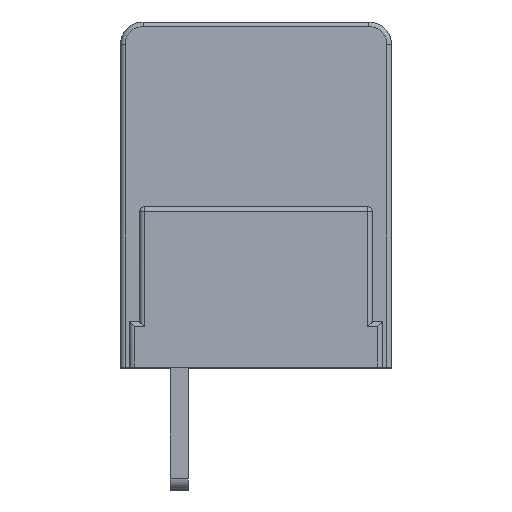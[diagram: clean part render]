
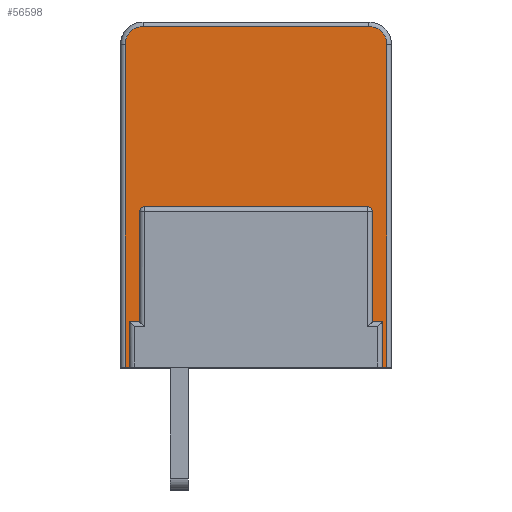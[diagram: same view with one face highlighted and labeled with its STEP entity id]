
A CAD part, top view. The second image highlights one B-rep face of the part: STEP entity #56598.
In plain terms, the highlighted planar face has unit normal (0, 0.009, 1).
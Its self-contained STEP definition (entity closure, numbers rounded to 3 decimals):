
#23986=DIRECTION('',(0.,-1.,0.009));
#23987=VECTOR('',#23986,14.302);
#23988=CARTESIAN_POINT('',(11.8,14.303,
-6.783));
#23989=LINE('',#23988,#23987);
#23995=DIRECTION('',(1.,0.,0.));
#23996=VECTOR('',#23995,11.6);
#23997=CARTESIAN_POINT('',(0.2,0.002,-6.658));
#23998=LINE('',#23997,#23996);
#23999=CARTESIAN_POINT('',(1.,14.304,
-6.783));
#24000=DIRECTION('',(0.,0.009,1.));
#24001=DIRECTION('',(0.,1.,-0.009));
#24002=AXIS2_PLACEMENT_3D('',#23999,#24000,#24001);
#24008=DIRECTION('',(0.,1.,-0.009));
#24009=VECTOR('',#24008,5.6);
#24010=CARTESIAN_POINT('',(1.65,1.502,-6.671));
#24011=LINE('',#24010,#24009);
#24032=DIRECTION('',(-1.,0.,0.));
#24033=VECTOR('',#24032,0.6);
#24034=CARTESIAN_POINT('',(1.65,7.102,-6.72));
#24035=LINE('',#24034,#24033);
#24041=DIRECTION('',(-1.,0.,0.));
#24042=VECTOR('',#24041,4.57);
#24043=CARTESIAN_POINT('',(8.285,7.102,-6.72));
#24044=LINE('',#24043,#24042);
#24050=DIRECTION('',(-1.,0.,0.));
#24051=VECTOR('',#24050,0.6);
#24052=CARTESIAN_POINT('',(10.95,7.102,-6.72));
#24053=LINE('',#24052,#24051);
#24194=DIRECTION('',(1.,0.,0.));
#24195=VECTOR('',#24194,11.2);
#24196=CARTESIAN_POINT('',(0.4,0.502,-6.662));
#24197=LINE('',#24196,#24195);
#24202=DIRECTION('',(0.,1.,-0.009));
#24203=VECTOR('',#24202,1.5);
#24204=CARTESIAN_POINT('',(11.6,0.502,-6.662));
#24205=LINE('',#24204,#24203);
#24306=CARTESIAN_POINT('',(1.05,7.102,-6.72));
#24307=CARTESIAN_POINT('',(1.017,7.102,-6.72));
#24308=CARTESIAN_POINT('',(0.964,7.087,
-6.72));
#24309=CARTESIAN_POINT('',(0.906,7.046,
-6.72));
#24310=CARTESIAN_POINT('',(0.864,6.987,
-6.719));
#24311=CARTESIAN_POINT('',(0.85,6.935,-6.719));
#24312=CARTESIAN_POINT('',(0.85,6.902,-6.718));
#24318=DIRECTION('',(0.,-1.,0.009));
#24319=VECTOR('',#24318,4.9);
#24320=CARTESIAN_POINT('',(0.85,6.902,-6.718));
#24321=LINE('',#24320,#24319);
#24378=DIRECTION('',(0.,-1.,0.009));
#24379=VECTOR('',#24378,1.5);
#24380=CARTESIAN_POINT('',(0.4,2.002,-6.675));
#24381=LINE('',#24380,#24379);
#24386=DIRECTION('',(-1.,0.,0.));
#24387=VECTOR('',#24386,0.45);
#24388=CARTESIAN_POINT('',(0.85,2.002,-6.675));
#24389=LINE('',#24388,#24387);
#24414=CARTESIAN_POINT('',(11.15,6.902,-6.718));
#24415=CARTESIAN_POINT('',(11.15,6.935,-6.719));
#24416=CARTESIAN_POINT('',(11.136,6.987,
-6.719));
#24417=CARTESIAN_POINT('',(11.094,7.046,
-6.72));
#24418=CARTESIAN_POINT('',(11.036,7.087,
-6.72));
#24419=CARTESIAN_POINT('',(10.983,7.102,-6.72));
#24420=CARTESIAN_POINT('',(10.95,7.102,-6.72));
#24422=DIRECTION('',(0.,1.,-0.009));
#24423=VECTOR('',#24422,4.9);
#24424=CARTESIAN_POINT('',(11.15,2.002,-6.675));
#24425=LINE('',#24424,#24423);
#24434=DIRECTION('',(-1.,0.,0.));
#24435=VECTOR('',#24434,0.45);
#24436=CARTESIAN_POINT('',(11.6,2.002,-6.675));
#24437=LINE('',#24436,#24435);
#24462=DIRECTION('',(-1.,0.,0.));
#24463=VECTOR('',#24462,2.004);
#24464=CARTESIAN_POINT('',(3.654,1.502,
-6.671));
#24465=LINE('',#24464,#24463);
#24471=CARTESIAN_POINT('',(3.715,7.102,-6.72));
#24472=CARTESIAN_POINT('',(3.694,5.235,
-6.704));
#24473=CARTESIAN_POINT('',(3.674,3.368,
-6.687));
#24474=CARTESIAN_POINT('',(3.654,1.502,
-6.671));
#24480=CARTESIAN_POINT('',(8.346,1.502,
-6.671));
#24481=CARTESIAN_POINT('',(8.326,3.368,
-6.687));
#24482=CARTESIAN_POINT('',(8.306,5.235,
-6.704));
#24483=CARTESIAN_POINT('',(8.285,7.102,-6.72));
#24494=DIRECTION('',(-1.,0.,0.));
#24495=VECTOR('',#24494,2.004);
#24496=CARTESIAN_POINT('',(10.35,1.502,-6.671));
#24497=LINE('',#24496,#24495);
#24502=DIRECTION('',(0.,-1.,0.009));
#24503=VECTOR('',#24502,5.6);
#24504=CARTESIAN_POINT('',(10.35,7.102,-6.72));
#24505=LINE('',#24504,#24503);
#24522=DIRECTION('',(0.,1.,-0.009));
#24523=VECTOR('',#24522,14.302);
#24524=CARTESIAN_POINT('',(0.2,0.002,-6.658));
#24525=LINE('',#24524,#24523);
#24532=CARTESIAN_POINT('',(0.2,0.002,
-6.658));
#24554=DIRECTION('',(1.,0.,0.));
#24555=VECTOR('',#24554,10.);
#24556=CARTESIAN_POINT('',(1.,15.103,
-6.79));
#24557=LINE('',#24556,#24555);
#24567=CARTESIAN_POINT('',(11.,14.304,
-6.783));
#24568=DIRECTION('',(0.,-0.009,-1.));
#24569=DIRECTION('',(0.,1.,-0.009));
#24570=AXIS2_PLACEMENT_3D('',#24567,#24568,#24569);
#25177=VERTEX_POINT('',#24532);
#25178=CARTESIAN_POINT('',(11.8,0.002,-6.658));
#25179=VERTEX_POINT('',#25178);
#25184=CARTESIAN_POINT('',(0.2,14.303,
-6.783));
#25185=VERTEX_POINT('',#25184);
#25241=CARTESIAN_POINT('',(1.,15.103,
-6.79));
#25242=VERTEX_POINT('',#25241);
#25243=CARTESIAN_POINT('',(11.,15.103,
-6.79));
#25244=VERTEX_POINT('',#25243);
#25245=CARTESIAN_POINT('',(11.8,14.303,
-6.783));
#25246=VERTEX_POINT('',#25245);
#25247=CARTESIAN_POINT('',(1.65,7.102,-6.72));
#25248=CARTESIAN_POINT('',(1.05,7.102,-6.72));
#25249=VERTEX_POINT('',#25247);
#25250=VERTEX_POINT('',#25248);
#25251=VERTEX_POINT('',#24312);
#25252=CARTESIAN_POINT('',(0.85,2.002,-6.675));
#25253=VERTEX_POINT('',#25252);
#25254=CARTESIAN_POINT('',(0.4,2.002,-6.675));
#25255=VERTEX_POINT('',#25254);
#25256=CARTESIAN_POINT('',(0.4,0.502,-6.662));
#25257=VERTEX_POINT('',#25256);
#25258=CARTESIAN_POINT('',(11.6,0.502,-6.662));
#25259=VERTEX_POINT('',#25258);
#25260=CARTESIAN_POINT('',(11.6,2.002,-6.675));
#25261=VERTEX_POINT('',#25260);
#25262=CARTESIAN_POINT('',(11.15,2.002,-6.675));
#25263=VERTEX_POINT('',#25262);
#25264=CARTESIAN_POINT('',(11.15,6.902,-6.718));
#25265=VERTEX_POINT('',#25264);
#25266=VERTEX_POINT('',#24420);
#25267=CARTESIAN_POINT('',(10.35,7.102,-6.72));
#25268=VERTEX_POINT('',#25267);
#25269=CARTESIAN_POINT('',(10.35,1.502,-6.671));
#25270=VERTEX_POINT('',#25269);
#25271=CARTESIAN_POINT('',(8.346,1.502,
-6.671));
#25272=VERTEX_POINT('',#25271);
#25273=VERTEX_POINT('',#24483);
#25274=CARTESIAN_POINT('',(3.715,7.102,-6.72));
#25275=VERTEX_POINT('',#25274);
#25276=VERTEX_POINT('',#24474);
#25277=CARTESIAN_POINT('',(1.65,1.502,-6.671));
#25278=VERTEX_POINT('',#25277);
#56543=CARTESIAN_POINT('',(-0.768,7.102,-6.72));
#56544=DIRECTION('',(0.,0.009,1.));
#56545=DIRECTION('',(1.,0.,0.));
#56546=AXIS2_PLACEMENT_3D('',#56543,#56544,#56545);
#56547=PLANE('',#56546);
#56548=ORIENTED_EDGE('',*,*,#56433,.F.);
#56550=ORIENTED_EDGE('',*,*,#56549,.T.);
#56552=ORIENTED_EDGE('',*,*,#56551,.F.);
#56554=ORIENTED_EDGE('',*,*,#56553,.T.);
#56556=ORIENTED_EDGE('',*,*,#56555,.T.);
#56557=ORIENTED_EDGE('',*,*,#56536,.T.);
#56558=EDGE_LOOP('',(#56548,#56550,#56552,#56554,#56556,#56557));
#56559=FACE_OUTER_BOUND('',#56558,.F.);
#56561=ORIENTED_EDGE('',*,*,#56560,.T.);
#56563=ORIENTED_EDGE('',*,*,#56562,.T.);
#56565=ORIENTED_EDGE('',*,*,#56564,.T.);
#56567=ORIENTED_EDGE('',*,*,#56566,.T.);
#56569=ORIENTED_EDGE('',*,*,#56568,.T.);
#56571=ORIENTED_EDGE('',*,*,#56570,.T.);
#56573=ORIENTED_EDGE('',*,*,#56572,.T.);
#56575=ORIENTED_EDGE('',*,*,#56574,.T.);
#56577=ORIENTED_EDGE('',*,*,#56576,.T.);
#56579=ORIENTED_EDGE('',*,*,#56578,.T.);
#56581=ORIENTED_EDGE('',*,*,#56580,.T.);
#56583=ORIENTED_EDGE('',*,*,#56582,.T.);
#56585=ORIENTED_EDGE('',*,*,#56584,.T.);
#56587=ORIENTED_EDGE('',*,*,#56586,.T.);
#56589=ORIENTED_EDGE('',*,*,#56588,.T.);
#56591=ORIENTED_EDGE('',*,*,#56590,.T.);
#56593=ORIENTED_EDGE('',*,*,#56592,.T.);
#56595=ORIENTED_EDGE('',*,*,#56594,.T.);
#56596=EDGE_LOOP('',(#56561,#56563,#56565,#56567,#56569,#56571,#56573,#56575,
#56577,#56579,#56581,#56583,#56585,#56587,#56589,#56591,#56593,#56595));
#56597=FACE_BOUND('',#56596,.F.);
#56598=ADVANCED_FACE('',(#56559,#56597),#56547,.T.);
#24003=CIRCLE('',#24002,0.8);
#24313=B_SPLINE_CURVE_WITH_KNOTS('',3,(#24306,#24307,#24308,#24309,#24310,
#24311,#24312),.UNSPECIFIED.,.F.,.F.,(4,1,1,1,4),(0.,0.25,0.5,0.75,
1.),.UNSPECIFIED.);
#24421=B_SPLINE_CURVE_WITH_KNOTS('',3,(#24414,#24415,#24416,#24417,#24418,
#24419,#24420),.UNSPECIFIED.,.F.,.F.,(4,1,1,1,4),(0.,0.25,0.5,0.75,
1.),.UNSPECIFIED.);
#24475=B_SPLINE_CURVE_WITH_KNOTS('',3,(#24471,#24472,#24473,#24474),
.UNSPECIFIED.,.F.,.F.,(4,4),(0.,1.),.UNSPECIFIED.);
#24484=B_SPLINE_CURVE_WITH_KNOTS('',3,(#24480,#24481,#24482,#24483),
.UNSPECIFIED.,.F.,.F.,(4,4),(0.,1.),.UNSPECIFIED.);
#24571=CIRCLE('',#24570,0.8);
#56433=EDGE_CURVE('',#25177,#25179,#23998,.T.);
#56536=EDGE_CURVE('',#25246,#25179,#23989,.T.);
#56549=EDGE_CURVE('',#25177,#25185,#24525,.T.);
#56551=EDGE_CURVE('',#25242,#25185,#24003,.T.);
#56553=EDGE_CURVE('',#25242,#25244,#24557,.T.);
#56555=EDGE_CURVE('',#25244,#25246,#24571,.T.);
#56560=EDGE_CURVE('',#25278,#25249,#24011,.T.);
#56562=EDGE_CURVE('',#25249,#25250,#24035,.T.);
#56564=EDGE_CURVE('',#25250,#25251,#24313,.T.);
#56566=EDGE_CURVE('',#25251,#25253,#24321,.T.);
#56568=EDGE_CURVE('',#25253,#25255,#24389,.T.);
#56570=EDGE_CURVE('',#25255,#25257,#24381,.T.);
#56572=EDGE_CURVE('',#25257,#25259,#24197,.T.);
#56574=EDGE_CURVE('',#25259,#25261,#24205,.T.);
#56576=EDGE_CURVE('',#25261,#25263,#24437,.T.);
#56578=EDGE_CURVE('',#25263,#25265,#24425,.T.);
#56580=EDGE_CURVE('',#25265,#25266,#24421,.T.);
#56582=EDGE_CURVE('',#25266,#25268,#24053,.T.);
#56584=EDGE_CURVE('',#25268,#25270,#24505,.T.);
#56586=EDGE_CURVE('',#25270,#25272,#24497,.T.);
#56588=EDGE_CURVE('',#25272,#25273,#24484,.T.);
#56590=EDGE_CURVE('',#25273,#25275,#24044,.T.);
#56592=EDGE_CURVE('',#25275,#25276,#24475,.T.);
#56594=EDGE_CURVE('',#25276,#25278,#24465,.T.);
